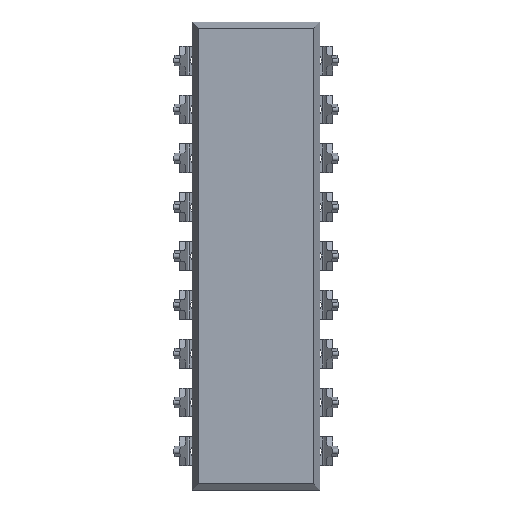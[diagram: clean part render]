
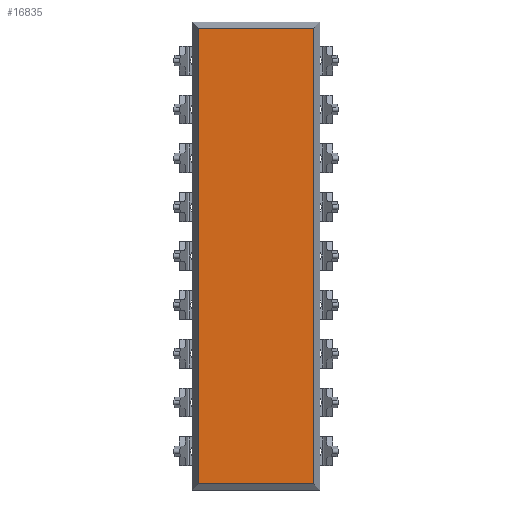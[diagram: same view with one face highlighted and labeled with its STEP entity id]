
A CAD part, front view. The second image highlights one B-rep face of the part: STEP entity #16835.
In plain terms, the highlighted planar face has unit normal (0, -1, 0).
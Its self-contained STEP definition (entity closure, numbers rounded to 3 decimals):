
#471 = CARTESIAN_POINT ( 'NONE',  ( 3.325, 0., 0.328 ) ) ;
#1137 = CARTESIAN_POINT ( 'NONE',  ( -2.997, 0., 24.012 ) ) ;
#3144 = EDGE_CURVE ( 'NONE', #20223, #21178, #20752, .T. ) ;
#3473 = ORIENTED_EDGE ( 'NONE', *, *, #25996, .F. ) ;
#4130 = ORIENTED_EDGE ( 'NONE', *, *, #3144, .F. ) ;
#4839 = CARTESIAN_POINT ( 'NONE',  ( 2.997, 0., 24.012 ) ) ;
#4846 = CARTESIAN_POINT ( 'NONE',  ( -2.997, 0., 0.328 ) ) ;
#5106 = LINE ( 'NONE', #14147, #21223 ) ;
#7248 = CARTESIAN_POINT ( 'NONE',  ( -2.997, 0., 24.34 ) ) ;
#8318 = CARTESIAN_POINT ( 'NONE',  ( 2.997, 0., 24.34 ) ) ;
#9533 = DIRECTION ( 'NONE',  ( -1., 0., 0. ) ) ;
#9620 = EDGE_CURVE ( 'NONE', #27144, #21178, #5106, .T. ) ;
#9771 = LINE ( 'NONE', #18775, #13620 ) ;
#10775 = EDGE_CURVE ( 'NONE', #12847, #27144, #9771, .T. ) ;
#12847 = VERTEX_POINT ( 'NONE', #4839 ) ;
#13578 = CARTESIAN_POINT ( 'NONE',  ( 2.997, 0., 0.328 ) ) ;
#13620 = VECTOR ( 'NONE', #27835, 1000. ) ;
#14147 = CARTESIAN_POINT ( 'NONE',  ( -2.997, 0., 24.34 ) ) ;
#15676 = VECTOR ( 'NONE', #9533, 1000. ) ;
#16278 = DIRECTION ( 'NONE',  ( 0., 1., 0. ) ) ;
#16835 = ADVANCED_FACE ( 'NONE', ( #18478 ), #27541, .F. ) ;
#17333 = DIRECTION ( 'NONE',  ( 0., 0., -1. ) ) ;
#17694 = AXIS2_PLACEMENT_3D ( 'NONE', #7248, #16278, #25320 ) ;
#18478 = FACE_OUTER_BOUND ( 'NONE', #27813, .T. ) ;
#18775 = CARTESIAN_POINT ( 'NONE',  ( 3.325, 0., 24.012 ) ) ;
#20223 = VERTEX_POINT ( 'NONE', #13578 ) ;
#20752 = LINE ( 'NONE', #471, #15676 ) ;
#21178 = VERTEX_POINT ( 'NONE', #4846 ) ;
#21180 = ORIENTED_EDGE ( 'NONE', *, *, #10775, .T. ) ;
#21223 = VECTOR ( 'NONE', #23169, 1000. ) ;
#23169 = DIRECTION ( 'NONE',  ( 0., 0., -1. ) ) ;
#25320 = DIRECTION ( 'NONE',  ( 0., 0., 1. ) ) ;
#25996 = EDGE_CURVE ( 'NONE', #12847, #20223, #28596, .T. ) ;
#27046 = VECTOR ( 'NONE', #17333, 1000. ) ;
#27144 = VERTEX_POINT ( 'NONE', #1137 ) ;
#27505 = ORIENTED_EDGE ( 'NONE', *, *, #9620, .T. ) ;
#27541 = PLANE ( 'NONE',  #17694 ) ;
#27813 = EDGE_LOOP ( 'NONE', ( #3473, #21180, #27505, #4130 ) ) ;
#27835 = DIRECTION ( 'NONE',  ( -1., 0., 0. ) ) ;
#28596 = LINE ( 'NONE', #8318, #27046 ) ;
